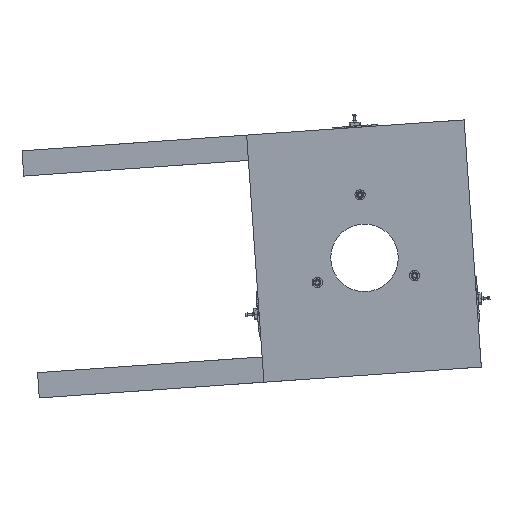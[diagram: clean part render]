
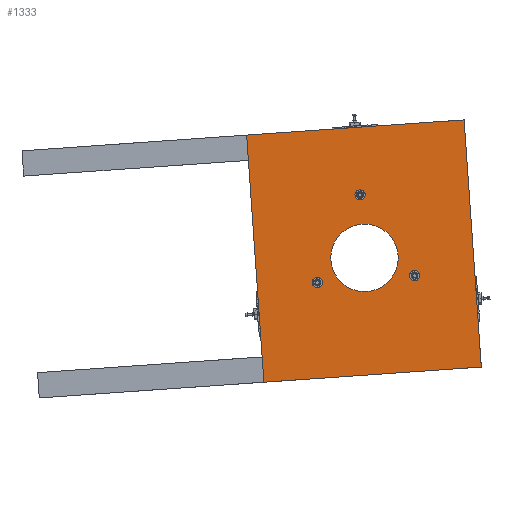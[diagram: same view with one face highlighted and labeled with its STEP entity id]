
A CAD part, left-side view. The second image highlights one B-rep face of the part: STEP entity #1333.
In plain terms, the highlighted planar face has unit normal (-1, 0, 0).
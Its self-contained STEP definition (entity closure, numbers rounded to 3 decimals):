
#421=CARTESIAN_POINT('',(390.,-1.728,-23.942));
#422=DIRECTION('',(-1.,0.,0.));
#423=DIRECTION('',(0.,-1.,0.));
#424=AXIS2_PLACEMENT_3D('',#421,#422,#423);
#429=CARTESIAN_POINT('',(390.,-1.728,-23.942));
#430=DIRECTION('',(-1.,0.,0.));
#431=DIRECTION('',(0.,1.,0.));
#432=AXIS2_PLACEMENT_3D('',#429,#430,#431);
#437=DIRECTION('',(0.,-0.998,0.07));
#438=VECTOR('',#437,774.153);
#439=CARTESIAN_POINT('',(390.,416.826,411.923));
#440=LINE('',#439,#438);
#444=DIRECTION('',(0.,-0.07,-0.998));
#445=VECTOR('',#444,880.);
#446=CARTESIAN_POINT('',(390.,-355.441,465.925));
#447=LINE('',#446,#445);
#451=DIRECTION('',(0.,0.998,-0.07));
#452=VECTOR('',#451,774.047);
#453=CARTESIAN_POINT('',(390.,-416.721,-411.938));
#454=LINE('',#453,#452);
#458=DIRECTION('',(0.,0.07,0.998));
#459=VECTOR('',#458,880.);
#460=CARTESIAN_POINT('',(390.,355.44,-465.933));
#461=LINE('',#460,#459);
#753=CARTESIAN_POINT('',(390.,416.826,411.923));
#754=CARTESIAN_POINT('',(390.,-355.441,465.925));
#755=VERTEX_POINT('',#753);
#756=VERTEX_POINT('',#754);
#757=CARTESIAN_POINT('',(390.,-416.721,-411.938));
#758=CARTESIAN_POINT('',(390.,355.44,-465.933));
#759=VERTEX_POINT('',#757);
#760=VERTEX_POINT('',#758);
#781=CARTESIAN_POINT('',(390.,-121.728,-23.942));
#782=CARTESIAN_POINT('',(390.,118.272,-23.942));
#783=VERTEX_POINT('',#781);
#784=VERTEX_POINT('',#782);
#1315=CARTESIAN_POINT('',(390.,0.,0.));
#1316=DIRECTION('',(1.,0.,0.));
#1317=DIRECTION('',(0.,-1.,0.));
#1318=AXIS2_PLACEMENT_3D('',#1315,#1316,#1317);
#1319=PLANE('',#1318);
#1320=ORIENTED_EDGE('',*,*,#1296,.T.);
#1321=ORIENTED_EDGE('',*,*,#928,.T.);
#1323=ORIENTED_EDGE('',*,*,#1322,.T.);
#1324=ORIENTED_EDGE('',*,*,#1044,.T.);
#1325=EDGE_LOOP('',(#1320,#1321,#1323,#1324));
#1326=FACE_OUTER_BOUND('',#1325,.F.);
#1328=ORIENTED_EDGE('',*,*,#1327,.T.);
#1330=ORIENTED_EDGE('',*,*,#1329,.T.);
#1331=EDGE_LOOP('',(#1328,#1330));
#1332=FACE_BOUND('',#1331,.F.);
#425=CIRCLE('',#424,120.);
#433=CIRCLE('',#432,120.);
#928=EDGE_CURVE('',#756,#759,#447,.T.);
#1044=EDGE_CURVE('',#760,#755,#461,.T.);
#1296=EDGE_CURVE('',#755,#756,#440,.T.);
#1322=EDGE_CURVE('',#759,#760,#454,.T.);
#1327=EDGE_CURVE('',#783,#784,#425,.T.);
#1329=EDGE_CURVE('',#784,#783,#433,.T.);
#1333=ADVANCED_FACE('',(#1326,#1332),#1319,.F.);
